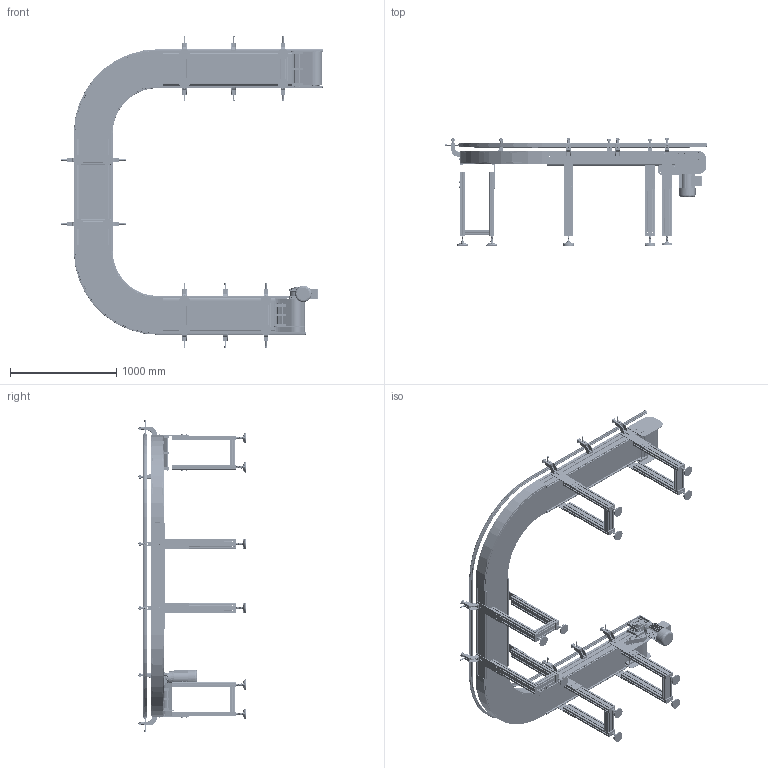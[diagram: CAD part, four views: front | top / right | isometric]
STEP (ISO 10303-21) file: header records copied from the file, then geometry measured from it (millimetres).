
FILE_DESCRIPTION (( 'STEP AP203' ), '1' );
FILE_NAME ('NASTRO_CATENA.step', '2026-05-04T14:19:26', ( 'Utente Windows' ), ( '' ), 'SwSTEP 2.0', 'SolidWorks 2024', '' );
FILE_SCHEMA (( 'CONFIG_CONTROL_DESIGN' ));
Length unit declared in the file: millimetre
Products named in the file (63): 2000.1200.492_MONTAGGIO; SUPPORTO_SPONDA; SBPF 205; VITI TSEI UNI 5933 INOX_0825UNI5933A2; 084.712.002; 2000.001.013; 084.302.016; 2000.001.102-1; 084.802.027; VITI TCEI UNI 5931 INOX_M8x25 UNI 5931 INOX; 2000.1200.104; 2000.1200.491_MONTAGGIO; VITI TSEI UNI 5933 INOX_0820UNI5933A2; VITI TE UNI 5739 INOX_M6x12 UNI 5739 INOX; 2000.1200.201-1; CH06P_DX; 084.302.000 DADI ALUSIC 13x13-1_084.302.004; K750_DIR_49_P_DX_VERSIONE DX; 2000.001.017; SPONDA_U_DX_Default<A macchina>; RONDELLE FASCIA LARGA UNI 6593 INOX_8.4x24 UNI 6593 INOX; 084.301.000 VITI ALUSIC1_084.301.003; RONDELLE UNI 6592 INOX_6.4x12.5 UNI 6592 INOX; PIEDE_K750; K1200_TC_9_Default<A macchina>; FLANGIA_GAMBE_K750_CON GIUNTI; 2000.001.015-1; K1200_90°_S_P; 084.402.005; VITI TSEI UNI 5933 INOX_0816UNI5933A2; VITI TSEI UNI 5933 INOX_0420UNI5933A2; 084.405.001; 2000.1200.404_2000.1200.404; 084.711.002; 084.808.004; CATENA_UDX; RONDELLE FASCIA LARGA UNI 6593 INOX_8.4x32 UNI 6593 INOX; 2000.001.210; K1200_TC_1_Default<A macchina>; 2000.750.104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
Assembly tree (237 placements, depth 3):
  NASTRO_CATENA
    K1200_TC_1_Default<A macchina>
    K1200_CC_7_Default<A macchina>
    K1200_TC_9_Default<A macchina>
    K750_DIR_49_P_DX_VERSIONE DX
      2000.001.013
      2000.001.015-1  x3
      084.802.027
      2000.750.103-1
      2000.001.102-1
      2000.750.104  x2
      2000.001.016  x2
      2000.001.017
      084.808.004
      CHIAVETTE_A 8x7x70 UNI 6604-69
      SBPF 205  x2
      RUOTE DI TRAINO NS882_NS882T12R25
      VITI TE UNI 5739 INOX_M8x20 UNI 5739 INOX  x8
      RONDELLE UNI 6592 INOX_8.4x18 UNI 6592 INOX  x6
      VITI TE UNI 5739 INOX_M6x20 UNI 5739 INOX  x4
      RONDELLE UNI 6592 INOX_6.4x12.5 UNI 6592 INOX  x4
      RONDELLE FASCIA LARGA UNI 6593 INOX_8.4x32 UNI 6593 INOX
      RONDELLE FASCIA LARGA UNI 6593 INOX_8.4x24 UNI 6593 INOX
      VITI TCEI UNI 5931 INOX_M8x25 UNI 5931 INOX  x2
      VITI TE UNI 5739 INOX_M6x12 UNI 5739 INOX  x4
      VITI TSEI UNI 5933 INOX_0420UNI5933A2  x8
      VITI TSEI UNI 5933 INOX_0816UNI5933A2  x6
      084.302.016  x4
    K1200_90°_S_P  x2
      2000.1200.404_2000.1200.404
      2000.001.401_Default<Lavorato>
      2000.1200.491_MONTAGGIO
      2000.1200.492_MONTAGGIO
      VITI TCEI UNI 5931 INOX_M8x35 UNI 5931 INOX
    K1200_R_P
      2000.001.014-1  x2
      2000.1200.201-1
      2000.1200.104  x2
      2000.001.210
      2000.001.211
      2000.001.016  x2
      2000.001.015-1  x3
      RUOTE DI TRAINO NS882_NS882T12R25
      VITI TSEI UNI 5933 INOX_0420UNI5933A2  x8
      RONDELLE UNI 6592 INOX_6.4x12.5 UNI 6592 INOX  x4
      VITI TE UNI 5739 INOX_M6x20 UNI 5739 INOX  x4
      VITI TSEI UNI 5933 INOX_0825UNI5933A2  x2
      084.302.000 DADI ALUSIC LUNGHI_084.302.016  x4
      VITI TSEI UNI 5933 INOX_0820UNI5933A2  x8
    GAMBE_K750_Default<A macchina>  x6
    FLANGIA_GAMBE_K750_CON GIUNTI  x12
      084.709.002_084.709.002
      084.302.000 DADI ALUSIC 13x13-1_084.302.004
      RONDELLE UNI 6592_8.4x17 UNI 6592
      084.302.016
      084.301.000 VITI ALUSIC1_084.301.003
    PIEDE_K750  x12
      084.405.001
      084.402.005
      084.301.000 VITI ALUSIC1_084.301.003
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Bounding box: 2473.56 x 1009.2 x 2936.12 mm (x, y, z)
Volume: 106234332.9 mm3; surface area: 34887705.9 mm2
Topology: 604 solids, 609 shells, 24865 faces, 64922 edges, 41586 vertices
Faces by surface type: cylinder 10884, plane 10256, torus 1512, cone 1280, bspline 769, sphere 164
Entity records: 246426 total; most frequent: CARTESIAN_POINT 64031, ORIENTED_EDGE 36190, DIRECTION 35685, EDGE_CURVE 18104, AXIS2_PLACEMENT_3D 12254, VERTEX_POINT 11639, LINE 11177, VECTOR 11177
